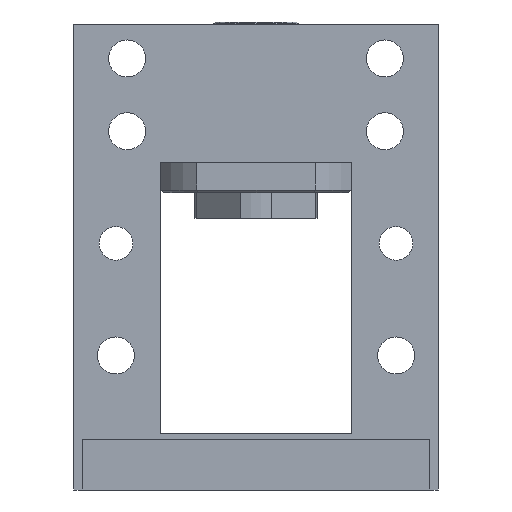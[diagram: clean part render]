
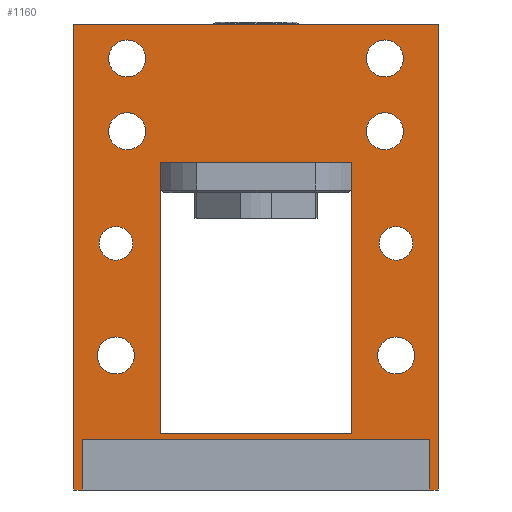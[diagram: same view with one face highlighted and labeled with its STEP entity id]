
A CAD part, front view. The second image highlights one B-rep face of the part: STEP entity #1160.
In plain terms, the highlighted planar face has unit normal (0, -1, 0).
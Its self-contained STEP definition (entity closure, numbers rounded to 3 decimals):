
#803=PLANE('',#3339);
#889=LINE('',#4555,#1029);
#897=LINE('',#4604,#1037);
#898=LINE('',#4606,#1038);
#906=LINE('',#4623,#1046);
#910=LINE('',#4631,#1050);
#930=LINE('',#4675,#1070);
#932=LINE('',#4679,#1072);
#934=LINE('',#4693,#1074);
#935=LINE('',#4694,#1075);
#936=LINE('',#4695,#1076);
#937=LINE('',#4697,#1077);
#938=LINE('',#4698,#1078);
#1029=VECTOR('',#3691,1.);
#1037=VECTOR('',#3741,1.);
#1038=VECTOR('',#3744,1.);
#1046=VECTOR('',#3756,1.);
#1050=VECTOR('',#3762,1.);
#1070=VECTOR('',#3800,1.);
#1072=VECTOR('',#3804,1.);
#1074=VECTOR('',#3818,1.);
#1075=VECTOR('',#3819,1.);
#1076=VECTOR('',#3820,1.);
#1077=VECTOR('',#3821,1.);
#1078=VECTOR('',#3822,1.);
#1160=ADVANCED_FACE('',(#1410,#1411,#1412,#1413,#1414,#1415,#1416,#1417,
#1418,#1419),#803,.F.);
#1410=FACE_BOUND('',#1649,.T.);
#1411=FACE_BOUND('',#1650,.T.);
#1412=FACE_BOUND('',#1651,.T.);
#1413=FACE_BOUND('',#1652,.T.);
#1414=FACE_BOUND('',#1653,.T.);
#1415=FACE_BOUND('',#1654,.T.);
#1416=FACE_BOUND('',#1655,.T.);
#1417=FACE_BOUND('',#1656,.T.);
#1418=FACE_BOUND('',#1657,.T.);
#1419=FACE_BOUND('',#1658,.T.);
#1649=EDGE_LOOP('',(#2040));
#1650=EDGE_LOOP('',(#2041));
#1651=EDGE_LOOP('',(#2042));
#1652=EDGE_LOOP('',(#2043));
#1653=EDGE_LOOP('',(#2044));
#1654=EDGE_LOOP('',(#2045));
#1655=EDGE_LOOP('',(#2046));
#1656=EDGE_LOOP('',(#2047));
#1657=EDGE_LOOP('',(#2048,#2049,#2050,#2051,#2052,#2053,#2054,#2055));
#1658=EDGE_LOOP('',(#2056,#2057,#2058,#2059));
#2040=ORIENTED_EDGE('',*,*,#2909,.F.);
#2041=ORIENTED_EDGE('',*,*,#2805,.T.);
#2042=ORIENTED_EDGE('',*,*,#2861,.T.);
#2043=ORIENTED_EDGE('',*,*,#2910,.T.);
#2044=ORIENTED_EDGE('',*,*,#2911,.T.);
#2045=ORIENTED_EDGE('',*,*,#2912,.T.);
#2046=ORIENTED_EDGE('',*,*,#2913,.T.);
#2047=ORIENTED_EDGE('',*,*,#2859,.T.);
#2048=ORIENTED_EDGE('',*,*,#2877,.T.);
#2049=ORIENTED_EDGE('',*,*,#2914,.F.);
#2050=ORIENTED_EDGE('',*,*,#2881,.F.);
#2051=ORIENTED_EDGE('',*,*,#2915,.F.);
#2052=ORIENTED_EDGE('',*,*,#2907,.T.);
#2053=ORIENTED_EDGE('',*,*,#2905,.T.);
#2054=ORIENTED_EDGE('',*,*,#2916,.F.);
#2055=ORIENTED_EDGE('',*,*,#2917,.F.);
#2056=ORIENTED_EDGE('',*,*,#2868,.T.);
#2057=ORIENTED_EDGE('',*,*,#2918,.T.);
#2058=ORIENTED_EDGE('',*,*,#2869,.T.);
#2059=ORIENTED_EDGE('',*,*,#2845,.T.);
#2551=VERTEX_POINT('',#4472);
#2591=VERTEX_POINT('',#4554);
#2592=VERTEX_POINT('',#4556);
#2603=VERTEX_POINT('',#4583);
#2605=VERTEX_POINT('',#4588);
#2611=VERTEX_POINT('',#4603);
#2612=VERTEX_POINT('',#4607);
#2618=VERTEX_POINT('',#4622);
#2619=VERTEX_POINT('',#4624);
#2620=VERTEX_POINT('',#4628);
#2621=VERTEX_POINT('',#4630);
#2636=VERTEX_POINT('',#4674);
#2637=VERTEX_POINT('',#4676);
#2638=VERTEX_POINT('',#4680);
#2639=VERTEX_POINT('',#4684);
#2640=VERTEX_POINT('',#4686);
#2641=VERTEX_POINT('',#4688);
#2642=VERTEX_POINT('',#4690);
#2643=VERTEX_POINT('',#4692);
#2644=VERTEX_POINT('',#4696);
#2805=EDGE_CURVE('',#2551,#2551,#3123,.T.);
#2845=EDGE_CURVE('',#2592,#2591,#889,.T.);
#2859=EDGE_CURVE('',#2603,#2603,#3142,.T.);
#2861=EDGE_CURVE('',#2605,#2605,#3144,.T.);
#2868=EDGE_CURVE('',#2591,#2611,#897,.T.);
#2869=EDGE_CURVE('',#2612,#2592,#898,.T.);
#2877=EDGE_CURVE('',#2619,#2618,#906,.T.);
#2881=EDGE_CURVE('',#2621,#2620,#910,.T.);
#2905=EDGE_CURVE('',#2637,#2636,#930,.T.);
#2907=EDGE_CURVE('',#2638,#2637,#932,.T.);
#2909=EDGE_CURVE('',#2639,#2639,#3153,.T.);
#2910=EDGE_CURVE('',#2640,#2640,#3154,.T.);
#2911=EDGE_CURVE('',#2641,#2641,#3155,.T.);
#2912=EDGE_CURVE('',#2642,#2642,#3156,.T.);
#2913=EDGE_CURVE('',#2643,#2643,#3157,.T.);
#2914=EDGE_CURVE('',#2620,#2618,#934,.T.);
#2915=EDGE_CURVE('',#2638,#2621,#935,.T.);
#2916=EDGE_CURVE('',#2644,#2636,#936,.T.);
#2917=EDGE_CURVE('',#2619,#2644,#937,.T.);
#2918=EDGE_CURVE('',#2611,#2612,#938,.T.);
#3123=CIRCLE('',#3284,3.);
#3142=CIRCLE('',#3308,3.3);
#3144=CIRCLE('',#3311,3.3);
#3153=CIRCLE('',#3334,3.);
#3154=CIRCLE('',#3335,3.3);
#3155=CIRCLE('',#3336,3.3);
#3156=CIRCLE('',#3337,3.3);
#3157=CIRCLE('',#3338,3.3);
#3284=AXIS2_PLACEMENT_3D('',#4471,#3634,#3635);
#3308=AXIS2_PLACEMENT_3D('',#4582,#3717,#3718);
#3311=AXIS2_PLACEMENT_3D('',#4587,#3723,#3724);
#3334=AXIS2_PLACEMENT_3D('',#4683,#3808,#3809);
#3335=AXIS2_PLACEMENT_3D('',#4685,#3810,#3811);
#3336=AXIS2_PLACEMENT_3D('',#4687,#3812,#3813);
#3337=AXIS2_PLACEMENT_3D('',#4689,#3814,#3815);
#3338=AXIS2_PLACEMENT_3D('',#4691,#3816,#3817);
#3339=AXIS2_PLACEMENT_3D('',#4699,#3823,#3824);
#3634=DIRECTION('',(0.,1.,0.));
#3635=DIRECTION('',(0.,0.,1.));
#3691=DIRECTION('',(-1.,0.,0.));
#3717=DIRECTION('',(0.,1.,0.));
#3718=DIRECTION('',(0.,0.,1.));
#3723=DIRECTION('',(0.,1.,0.));
#3724=DIRECTION('',(0.,0.,1.));
#3741=DIRECTION('',(0.,0.,1.));
#3744=DIRECTION('',(0.,0.,-1.));
#3756=DIRECTION('',(0.,0.,1.));
#3762=DIRECTION('',(0.,0.,1.));
#3800=DIRECTION('',(-1.,0.,0.));
#3804=DIRECTION('',(0.,0.,1.));
#3808=DIRECTION('',(0.,-1.,0.));
#3809=DIRECTION('',(0.,0.,1.));
#3810=DIRECTION('',(0.,1.,0.));
#3811=DIRECTION('',(0.,0.,1.));
#3812=DIRECTION('',(0.,1.,0.));
#3813=DIRECTION('',(0.,0.,1.));
#3814=DIRECTION('',(0.,1.,0.));
#3815=DIRECTION('',(0.,0.,1.));
#3816=DIRECTION('',(0.,1.,0.));
#3817=DIRECTION('',(0.,0.,1.));
#3818=DIRECTION('',(-1.,0.,0.));
#3819=DIRECTION('',(-1.,0.,0.));
#3820=DIRECTION('',(0.,0.,1.));
#3821=DIRECTION('',(-1.,0.,0.));
#3822=DIRECTION('',(1.,0.,0.));
#3823=DIRECTION('',(0.,1.,0.));
#3824=DIRECTION('',(0.,0.,1.));
#4471=CARTESIAN_POINT('',(25.,-25.,-117.));
#4472=CARTESIAN_POINT('',(25.,-25.,-114.));
#4554=CARTESIAN_POINT('',(-17.,-25.,-151.));
#4555=CARTESIAN_POINT('',(17.,-25.,-151.));
#4556=CARTESIAN_POINT('',(17.,-25.,-151.));
#4582=CARTESIAN_POINT('',(-25.,-25.,-137.));
#4583=CARTESIAN_POINT('',(-25.,-25.,-133.7));
#4587=CARTESIAN_POINT('',(25.,-25.,-137.));
#4588=CARTESIAN_POINT('',(25.,-25.,-133.7));
#4603=CARTESIAN_POINT('',(-17.,-25.,-102.5));
#4604=CARTESIAN_POINT('',(-17.,-25.,-151.));
#4606=CARTESIAN_POINT('',(17.,-25.,-101.));
#4607=CARTESIAN_POINT('',(17.,-25.,-102.5));
#4622=CARTESIAN_POINT('',(-31.,-25.,-152.));
#4623=CARTESIAN_POINT('',(-31.,-25.,-161.));
#4624=CARTESIAN_POINT('',(-31.,-25.,-161.));
#4628=CARTESIAN_POINT('',(31.,-25.,-152.));
#4630=CARTESIAN_POINT('',(31.,-25.,-161.));
#4631=CARTESIAN_POINT('',(31.,-25.,-161.));
#4674=CARTESIAN_POINT('',(-32.5,-25.,-78.));
#4675=CARTESIAN_POINT('',(-35.,-25.,-78.));
#4676=CARTESIAN_POINT('',(32.5,-25.,-78.));
#4679=CARTESIAN_POINT('',(32.5,-25.,-161.));
#4680=CARTESIAN_POINT('',(32.5,-25.,-161.));
#4683=CARTESIAN_POINT('',(-25.,-25.,-117.));
#4684=CARTESIAN_POINT('',(-25.,-25.,-114.));
#4685=CARTESIAN_POINT('',(23.,-25.,-84.));
#4686=CARTESIAN_POINT('',(23.,-25.,-80.7));
#4687=CARTESIAN_POINT('',(23.,-25.,-97.));
#4688=CARTESIAN_POINT('',(23.,-25.,-93.7));
#4689=CARTESIAN_POINT('',(-23.,-25.,-84.));
#4690=CARTESIAN_POINT('',(-23.,-25.,-80.7));
#4691=CARTESIAN_POINT('',(-23.,-25.,-97.));
#4692=CARTESIAN_POINT('',(-23.,-25.,-93.7));
#4693=CARTESIAN_POINT('',(71.,-25.,-152.));
#4694=CARTESIAN_POINT('',(35.,-25.,-161.));
#4695=CARTESIAN_POINT('',(-32.5,-25.,-161.));
#4696=CARTESIAN_POINT('',(-32.5,-25.,-161.));
#4697=CARTESIAN_POINT('',(-35.,-25.,-161.));
#4698=CARTESIAN_POINT('',(-17.,-25.,-102.5));
#4699=CARTESIAN_POINT('',(-35.,-25.,-161.));
